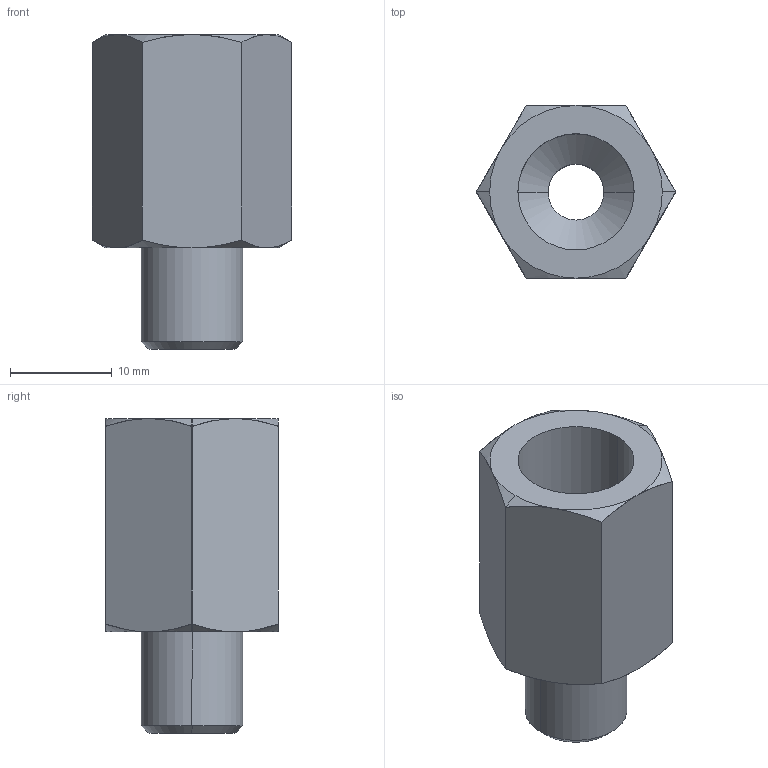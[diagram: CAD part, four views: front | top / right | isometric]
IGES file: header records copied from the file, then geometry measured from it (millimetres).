
Start section: 3D InterOp IGES (v. 2018 1.0.2), Spatial Corp. Copyright (c) 1999-2017.
Global section: file name: schmalz_10_01_01_10096_7njfxkvr00updzfhv0rb76h5i.igs; native system: Spatial Corp.; preprocessor: 3D InterOp ACIS/IGES; author: TraceParts; organization: TraceParts S.A.; date: 20181128.075713; units: millimetre
Bounding box: 19.63 x 17 x 31 mm (x, y, z)
Surface area: 2779.7 mm2 (no closed solid volume)
Topology: 0 solids, 0 shells, 35 faces, 148 edges, 148 vertices
Faces by surface type: revolution 26, extrusion 9
